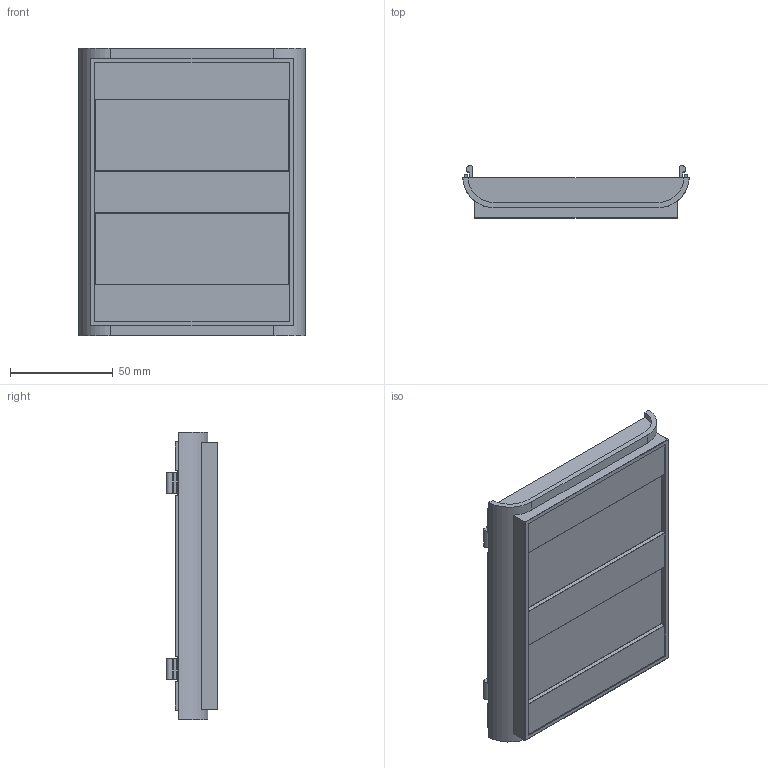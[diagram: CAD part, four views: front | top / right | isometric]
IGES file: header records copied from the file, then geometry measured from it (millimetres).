
Global section: file name: No Iges File Name specified; native system: Autodesk Inventor 2011; preprocessor: AutoDesk Inventor Iges Exporter R2011; author: tcook; date: 20101101.154509; units: inch
Bounding box: 109.98 x 25.15 x 139.7 mm (x, y, z)
Volume: 50157.1 mm3; surface area: 49704.6 mm2
Topology: 1 solids, 1 shells, 266 faces, 662 edges, 392 vertices
Faces by surface type: plane 88, bspline 66, revolution 62, cylinder 34, torus 12, sphere 4
